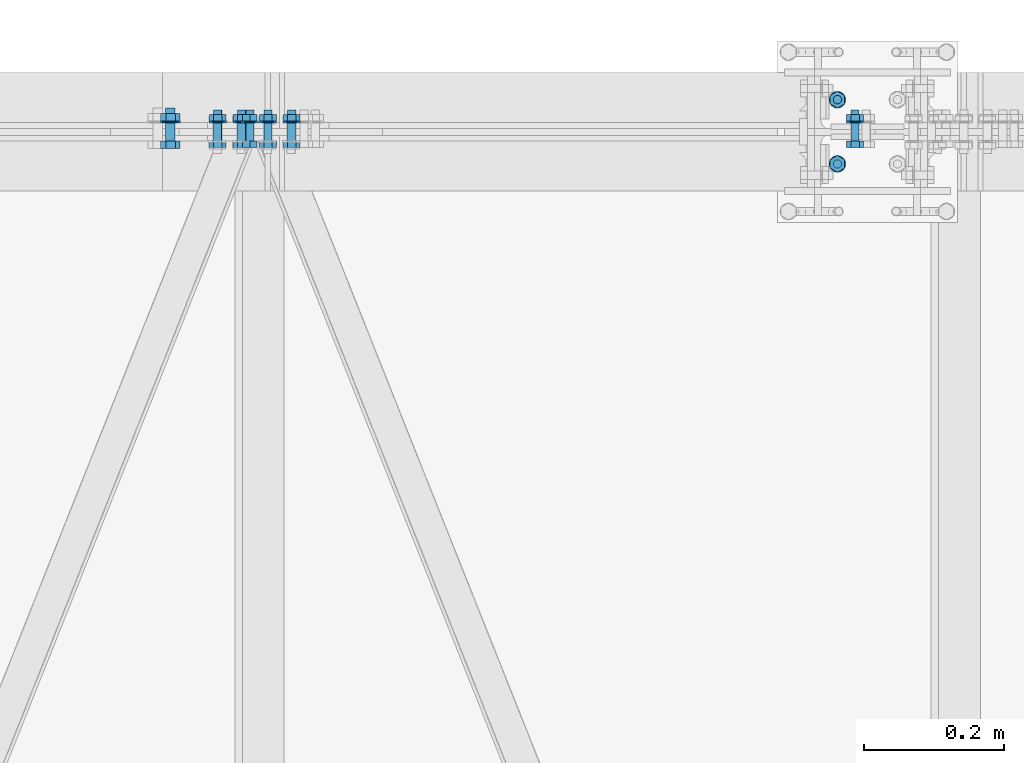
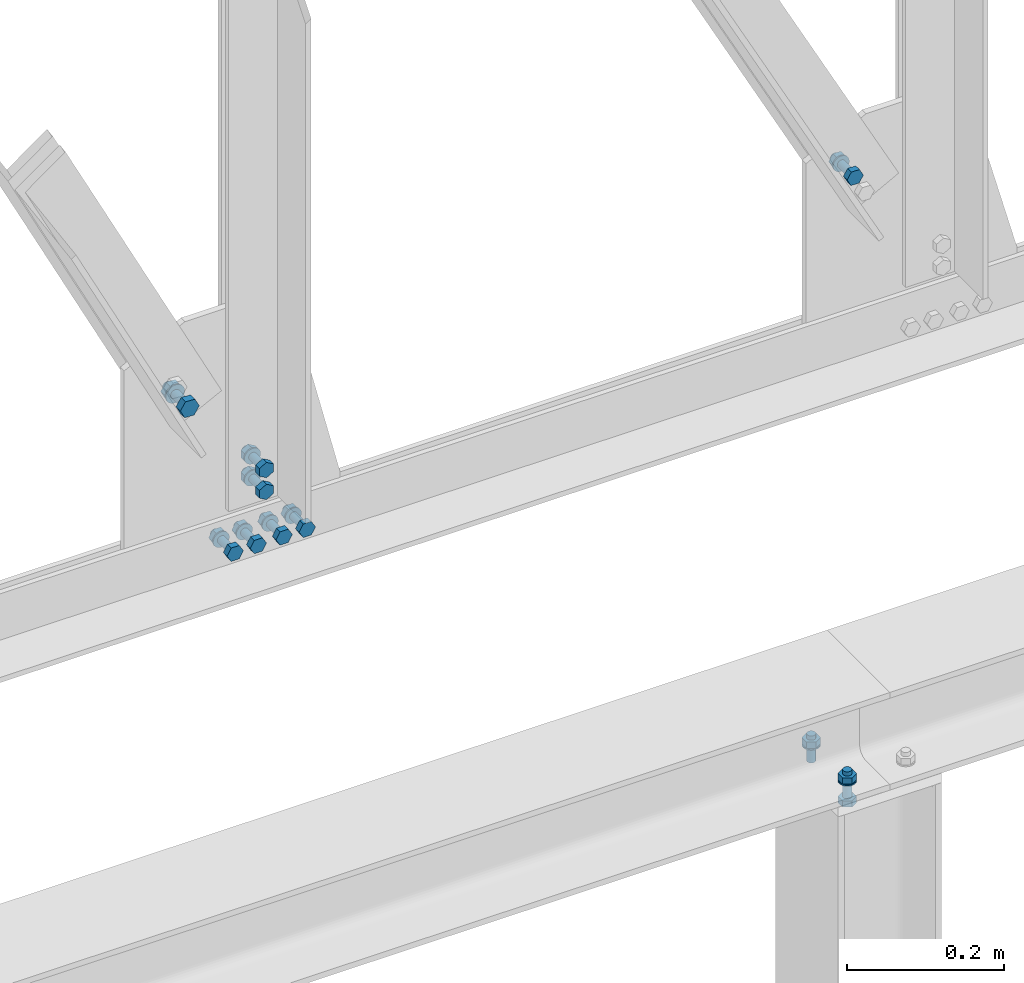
# One storey, part 199 of 251: 39 mechanical fasteners.
"""IFC4 building model written with IfcOpenShell, lengths in metres."""

from ifc_helpers import new_model, si_unit, frame, origin_with_axes, place, context, project, spatial, polyline, outline, extrude, type_object, element, save


model = new_model("IFC4")

# Units and contexts
model_context = context("Model", 3, precision=1e-05, world=origin_with_axes())
ifc_project = project(units=[si_unit("LENGTHUNIT", "METRE"), si_unit("AREAUNIT", "SQUARE_METRE"), si_unit("VOLUMEUNIT", "CUBIC_METRE"), si_unit("MASSUNIT", "GRAM", prefix="KILO"), si_unit("TIMEUNIT", "SECOND"), si_unit("PLANEANGLEUNIT", "RADIAN"), si_unit("SOLIDANGLEUNIT", "STERADIAN"), si_unit("THERMODYNAMICTEMPERATUREUNIT", "DEGREE_CELSIUS")], contexts=[model_context])

# Site, building, storey
placement_1 = place(None, origin_with_axes())
site = spatial("IfcSite", under=ifc_project, at=placement_1, Name="Italia", CompositionType="ELEMENT")
building = spatial("IfcBuilding", under=site, at=placement_1, Name="Deposito", CompositionType="ELEMENT")
storey = spatial("IfcBuildingStorey", under=building, at=placement_1, Name="Storey 0", CompositionType="ELEMENT", Elevation=0.0)

# Mechanical fasteners
mechanical_fastener_type_1 = type_object("IfcMechanicalFastenerType", Name="Collegamenti 7068_-014 7074_-015", PredefinedType="BOLT")
placement_2 = place(placement_1, origin_with_axes())
mechanical_fastener_1_placement = place(placement_2, origin_with_axes())
element("IfcMechanicalFastener", 1, at=mechanical_fastener_1_placement, inside=storey, type_object=mechanical_fastener_type_1, Name="Collegamenti 7068_-014 7074_-015", NominalDiameter=0.012, context=model_context, shape_type="SweptSolid", body=[
    extrude(outline(polyline([(0.0, 0.0), (-0.000204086, -0.00155258), (-0.000804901, -0.00300026), (-0.00175858, -0.0042429), (-0.00300026, -0.00519657), (-0.00444794, -0.00579548), (-0.00600052, -0.00599957), (-0.0075531, -0.00579548), (-0.00900078, -0.00519657), (-0.0102425, -0.0042429), (-0.0111961, -0.00300026), (-0.011797, -0.00155258), (-0.012001, 0.0), (-0.011797, 0.00155258), (-0.0111961, 0.00300026), (-0.0102425, 0.0042429), (-0.00900078, 0.00519657), (-0.0075531, 0.00579548), (-0.00600052, 0.00599957), (-0.00444794, 0.00579548), (-0.00300026, 0.00519657), (-0.00175858, 0.0042429), (-0.000804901, 0.00300026), (-0.000204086, 0.00155258), (0.0, 0.0)])), frame((10.872, 20.052, 4.375), z_axis=(0.0, 0.0, -1.0), x_axis=(0.0, 1.0, 0.0)), (0.0, 0.0, 1.0), 0.0419998),
])
mechanical_fastener_type_2 = type_object("IfcMechanicalFastenerType", Name="Collegamenti 7068_-014 7074_-015", PredefinedType="BOLT")
mechanical_fastener_2_placement = place(placement_2, origin_with_axes())
element("IfcMechanicalFastener", 2, at=mechanical_fastener_2_placement, inside=storey, type_object=mechanical_fastener_type_2, Name="Collegamenti 7068_-014 7074_-015", NominalDiameter=0.0119991, context=model_context, shape_type="SweptSolid", body=[
    extrude(outline(polyline([(0.0, 0.0), (0.0119991, 0.0), (0.0179996, -0.0103922), (0.0119991, -0.0207844), (0.0, -0.0207844), (-0.00600052, -0.0103922), (0.0, 0.0)])), frame((10.8824, 20.04, 4.3686), z_axis=(0.0, 0.0, -1.0), x_axis=(0.0, 1.0, 0.0)), (0.0, 0.0, 1.0), 0.00959969),
])
mechanical_fastener_type_3 = type_object("IfcMechanicalFastenerType", Name="Collegamenti 7068_-014 7074_-015", PredefinedType="BOLT")
mechanical_fastener_3_placement = place(placement_2, origin_with_axes())
element("IfcMechanicalFastener", 3, at=mechanical_fastener_3_placement, inside=storey, type_object=mechanical_fastener_type_3, Name="Collegamenti 7068_-014 7074_-015", NominalDiameter=0.024, context=model_context, shape_type="SweptSolid", body=[
    extrude(outline(polyline([(0.0, 0.0), (-0.000408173, -0.00310612), (-0.00160599, -0.00599957), (-0.00351334, -0.00848484), (-0.00599861, -0.0103922), (-0.00889397, -0.011591), (-0.0119991, -0.0120001), (-0.0151043, -0.011591), (-0.0179996, -0.0103922), (-0.0204849, -0.00848484), (-0.0223923, -0.00599957), (-0.0235901, -0.00310612), (-0.0239983, 0.0), (-0.0235901, 0.00310612), (-0.0223923, 0.00599957), (-0.0204849, 0.00848484), (-0.0179996, 0.0103922), (-0.0151043, 0.011591), (-0.0119991, 0.0120001), (-0.00889397, 0.011591), (-0.00599861, 0.0103922), (-0.00351334, 0.00848484), (-0.00160599, 0.00599957), (-0.000408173, 0.00310612), (0.0, 0.0)])), frame((10.872, 20.058, 4.359), z_axis=(0.0, 0.0, -1.0), x_axis=(0.0, 1.0, 0.0)), (0.0, 0.0, 1.0), 0.00200033),
])
mechanical_fastener_type_4 = type_object("IfcMechanicalFastenerType", Name="Collegamenti 7068_-014 7074_-015", PredefinedType="BOLT")
mechanical_fastener_4_placement = place(placement_2, origin_with_axes())
element("IfcMechanicalFastener", 4, at=mechanical_fastener_4_placement, inside=storey, type_object=mechanical_fastener_type_4, Name="Collegamenti 7068_-014 7074_-015", NominalDiameter=0.0119991, context=model_context, shape_type="SweptSolid", body=[
    extrude(outline(polyline([(0.0, 0.0), (0.0119991, 0.0), (0.0179996, -0.0103922), (0.0119991, -0.0207844), (0.0, -0.0207844), (-0.00600052, -0.0103922), (0.0, 0.0)])), frame((10.8824, 19.948, 4.333), z_axis=(0.0, 0.0, -1.0), x_axis=(0.0, 1.0, 0.0)), (0.0, 0.0, 1.0), 0.00960016),
])
mechanical_fastener_type_5 = type_object("IfcMechanicalFastenerType", Name="Collegamenti 7068_-014 7074_-015", PredefinedType="BOLT")
mechanical_fastener_5_placement = place(placement_2, origin_with_axes())
element("IfcMechanicalFastener", 5, at=mechanical_fastener_5_placement, inside=storey, type_object=mechanical_fastener_type_5, Name="Collegamenti 7068_-014 7074_-015", NominalDiameter=0.012, context=model_context, shape_type="SweptSolid", body=[
    extrude(outline(polyline([(0.0, 0.0), (-0.000204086, -0.00155258), (-0.000804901, -0.00300026), (-0.00175858, -0.0042429), (-0.00300026, -0.00519657), (-0.00444794, -0.00579548), (-0.00600052, -0.00599957), (-0.0075531, -0.00579548), (-0.00900078, -0.00519657), (-0.0102425, -0.0042429), (-0.0111961, -0.00300026), (-0.011797, -0.00155258), (-0.012001, 0.0), (-0.011797, 0.00155258), (-0.0111961, 0.00300026), (-0.0102425, 0.0042429), (-0.00900078, 0.00519657), (-0.0075531, 0.00579548), (-0.00600052, 0.00599957), (-0.00444794, 0.00579548), (-0.00300026, 0.00519657), (-0.00175858, 0.0042429), (-0.000804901, 0.00300026), (-0.000204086, 0.00155258), (0.0, 0.0)])), frame((10.872, 19.96, 4.375), z_axis=(0.0, 0.0, -1.0), x_axis=(0.0, 1.0, 0.0)), (0.0, 0.0, 1.0), 0.0419998),
])
mechanical_fastener_type_6 = type_object("IfcMechanicalFastenerType", Name="Collegamenti 7068_-014 7074_-015", PredefinedType="BOLT")
mechanical_fastener_6_placement = place(placement_2, origin_with_axes())
element("IfcMechanicalFastener", 6, at=mechanical_fastener_6_placement, inside=storey, type_object=mechanical_fastener_type_6, Name="Collegamenti 7068_-014 7074_-015", NominalDiameter=0.0119991, context=model_context, shape_type="SweptSolid", body=[
    extrude(outline(polyline([(0.0, 0.0), (0.0119991, 0.0), (0.0179996, -0.0103922), (0.0119991, -0.0207844), (0.0, -0.0207844), (-0.00600052, -0.0103922), (0.0, 0.0)])), frame((10.8824, 19.948, 4.3686), z_axis=(0.0, 0.0, -1.0), x_axis=(0.0, 1.0, 0.0)), (0.0, 0.0, 1.0), 0.00959969),
])
mechanical_fastener_type_7 = type_object("IfcMechanicalFastenerType", Name="Collegamenti 7068_-014 7074_-015", PredefinedType="BOLT")
mechanical_fastener_7_placement = place(placement_2, origin_with_axes())
element("IfcMechanicalFastener", 7, at=mechanical_fastener_7_placement, inside=storey, type_object=mechanical_fastener_type_7, Name="Collegamenti 7068_-014 7074_-015", NominalDiameter=0.024, context=model_context, shape_type="SweptSolid", body=[
    extrude(outline(polyline([(0.0, 0.0), (-0.000408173, -0.00310612), (-0.00160599, -0.00599957), (-0.00351334, -0.00848484), (-0.00599861, -0.0103922), (-0.00889397, -0.011591), (-0.0119991, -0.0120001), (-0.0151043, -0.011591), (-0.0179996, -0.0103922), (-0.0204849, -0.00848484), (-0.0223923, -0.00599957), (-0.0235901, -0.00310612), (-0.0239983, 0.0), (-0.0235901, 0.00310612), (-0.0223923, 0.00599957), (-0.0204849, 0.00848484), (-0.0179996, 0.0103922), (-0.0151043, 0.011591), (-0.0119991, 0.0120001), (-0.00889397, 0.011591), (-0.00599861, 0.0103922), (-0.00351334, 0.00848484), (-0.00160599, 0.00599957), (-0.000408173, 0.00310612), (0.0, 0.0)])), frame((10.872, 19.966, 4.359), z_axis=(0.0, 0.0, -1.0), x_axis=(0.0, 1.0, 0.0)), (0.0, 0.0, 1.0), 0.00200033),
])
mechanical_fastener_type_8 = type_object("IfcMechanicalFastenerType", Name="Reticolare 6", PredefinedType="BOLT")
mechanical_fastener_8_placement = place(placement_2, origin_with_axes())
element("IfcMechanicalFastener", 8, at=mechanical_fastener_8_placement, inside=storey, type_object=mechanical_fastener_type_8, Name="Reticolare 6", NominalDiameter=0.0119997, context=model_context, shape_type="SweptSolid", body=[
    extrude(outline(polyline([(0.0, 0.0), (-0.0120001, 0.0), (-0.0180006, 0.0103922), (-0.0120001, 0.0207844), (0.0, 0.0207844), (0.00599957, 0.0103922), (0.0, 0.0)])), frame((10.0251, 19.987, 4.99661), z_axis=(0.0, -1.0, 0.0), x_axis=(1.0, 0.0, 0.0)), (0.0, 0.0, 1.0), 0.00959969),
])
mechanical_fastener_type_9 = type_object("IfcMechanicalFastenerType", Name="Reticolare 6", PredefinedType="BOLT")
mechanical_fastener_9_placement = place(placement_2, origin_with_axes())
element("IfcMechanicalFastener", 9, at=mechanical_fastener_9_placement, inside=storey, type_object=mechanical_fastener_type_9, Name="Reticolare 6", NominalDiameter=0.012, context=model_context, shape_type="SweptSolid", body=[
    extrude(outline(polyline([(0.0, 0.0), (-0.000204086, -0.00155306), (-0.000802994, -0.00299978), (-0.00175667, -0.00424242), (-0.00299931, -0.00519609), (-0.00444698, -0.00579548), (-0.00599957, -0.00600004), (-0.00755215, -0.00579548), (-0.00899982, -0.00519609), (-0.0102425, -0.00424242), (-0.0111961, -0.00299978), (-0.011795, -0.00155306), (-0.0119991, 0.0), (-0.011795, 0.00155306), (-0.0111961, 0.00299978), (-0.0102425, 0.00424242), (-0.00899982, 0.00519609), (-0.00755215, 0.00579548), (-0.00599957, 0.00600004), (-0.00444698, 0.00579548), (-0.00299931, 0.00519609), (-0.00175667, 0.00424242), (-0.000802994, 0.00299978), (-0.000204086, 0.00155306), (0.0, 0.0)])), frame((10.0251, 20.031, 5.007), z_axis=(0.0, -1.0, 0.0), x_axis=(1.0, 0.0, 0.0)), (0.0, 0.0, 1.0), 0.0440006),
])
mechanical_fastener_type_10 = type_object("IfcMechanicalFastenerType", Name="Reticolare 6", PredefinedType="BOLT")
mechanical_fastener_10_placement = place(placement_2, origin_with_axes())
element("IfcMechanicalFastener", 10, at=mechanical_fastener_10_placement, inside=storey, type_object=mechanical_fastener_type_10, Name="Reticolare 6", NominalDiameter=0.0119997, context=model_context, shape_type="SweptSolid", body=[
    extrude(outline(polyline([(0.0, 0.0), (-0.0120001, 0.0), (-0.0180006, 0.0103922), (-0.0120001, 0.0207844), (0.0, 0.0207844), (0.00599957, 0.0103922), (0.0, 0.0)])), frame((10.0251, 20.0246, 4.99661), z_axis=(0.0, -1.0, 0.0), x_axis=(1.0, 0.0, 0.0)), (0.0, 0.0, 1.0), 0.00959969),
])
mechanical_fastener_type_11 = type_object("IfcMechanicalFastenerType", Name="Reticolare 6", PredefinedType="BOLT")
mechanical_fastener_11_placement = place(placement_2, origin_with_axes())
element("IfcMechanicalFastener", 11, at=mechanical_fastener_11_placement, inside=storey, type_object=mechanical_fastener_type_11, Name="Reticolare 6", NominalDiameter=0.024, context=model_context, shape_type="SweptSolid", body=[
    extrude(outline(polyline([(0.0, 0.0), (-0.000409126, -0.00310564), (-0.00160789, -0.00600004), (-0.00351524, -0.00848532), (-0.00600052, -0.0103922), (-0.00889397, -0.011591), (-0.0120001, -0.0120001), (-0.0151062, -0.011591), (-0.0179996, -0.0103922), (-0.0204849, -0.00848532), (-0.0223923, -0.00600004), (-0.023591, -0.00310564), (-0.0240002, 0.0), (-0.023591, 0.00310564), (-0.0223923, 0.00600004), (-0.0204849, 0.00848532), (-0.0179996, 0.0103922), (-0.0151062, 0.011591), (-0.0120001, 0.0120001), (-0.00889397, 0.011591), (-0.00600052, 0.0103922), (-0.00351524, 0.00848532), (-0.00160789, 0.00600004), (-0.000409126, 0.00310564), (0.0, 0.0)])), frame((10.0311, 20.015, 5.007), z_axis=(0.0, -1.0, 0.0), x_axis=(1.0, 0.0, 0.0)), (0.0, 0.0, 1.0), 0.0019989),
])
mechanical_fastener_type_12 = type_object("IfcMechanicalFastenerType", Name="Reticolare 6", PredefinedType="BOLT")
mechanical_fastener_12_placement = place(placement_2, origin_with_axes())
element("IfcMechanicalFastener", 12, at=mechanical_fastener_12_placement, inside=storey, type_object=mechanical_fastener_type_12, Name="Reticolare 6", NominalDiameter=0.0119997, context=model_context, shape_type="SweptSolid", body=[
    extrude(outline(polyline([(0.0, 0.0), (-0.0120001, 0.0), (-0.0179996, 0.0103922), (-0.0120001, 0.0207844), (0.0, 0.0207844), (0.00599957, 0.0103922), (0.0, 0.0)])), frame((9.99105, 19.987, 4.99661), z_axis=(0.0, -1.0, 0.0), x_axis=(1.0, 0.0, 0.0)), (0.0, 0.0, 1.0), 0.00959969),
])
mechanical_fastener_type_13 = type_object("IfcMechanicalFastenerType", Name="Reticolare 6", PredefinedType="BOLT")
mechanical_fastener_13_placement = place(placement_2, origin_with_axes())
element("IfcMechanicalFastener", 13, at=mechanical_fastener_13_placement, inside=storey, type_object=mechanical_fastener_type_13, Name="Reticolare 6", NominalDiameter=0.012, context=model_context, shape_type="SweptSolid", body=[
    extrude(outline(polyline([(0.0, 0.0), (-0.000204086, -0.00155306), (-0.000802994, -0.00299978), (-0.00175667, -0.00424242), (-0.00299931, -0.00519609), (-0.00444698, -0.00579548), (-0.00599957, -0.00600004), (-0.00755215, -0.00579548), (-0.00899982, -0.00519609), (-0.0102425, -0.00424242), (-0.0111961, -0.00299978), (-0.011795, -0.00155306), (-0.0119991, 0.0), (-0.011795, 0.00155306), (-0.0111961, 0.00299978), (-0.0102425, 0.00424242), (-0.00899982, 0.00519609), (-0.00755215, 0.00579548), (-0.00599957, 0.00600004), (-0.00444698, 0.00579548), (-0.00299931, 0.00519609), (-0.00175667, 0.00424242), (-0.000802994, 0.00299978), (-0.000204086, 0.00155306), (0.0, 0.0)])), frame((9.99105, 20.031, 5.007), z_axis=(0.0, -1.0, 0.0), x_axis=(1.0, 0.0, 0.0)), (0.0, 0.0, 1.0), 0.0440006),
])
mechanical_fastener_type_14 = type_object("IfcMechanicalFastenerType", Name="Reticolare 6", PredefinedType="BOLT")
mechanical_fastener_14_placement = place(placement_2, origin_with_axes())
element("IfcMechanicalFastener", 14, at=mechanical_fastener_14_placement, inside=storey, type_object=mechanical_fastener_type_14, Name="Reticolare 6", NominalDiameter=0.0119997, context=model_context, shape_type="SweptSolid", body=[
    extrude(outline(polyline([(0.0, 0.0), (-0.0120001, 0.0), (-0.0179996, 0.0103922), (-0.0120001, 0.0207844), (0.0, 0.0207844), (0.00599957, 0.0103922), (0.0, 0.0)])), frame((9.99105, 20.0246, 4.99661), z_axis=(0.0, -1.0, 0.0), x_axis=(1.0, 0.0, 0.0)), (0.0, 0.0, 1.0), 0.00959969),
])
mechanical_fastener_type_15 = type_object("IfcMechanicalFastenerType", Name="Reticolare 6", PredefinedType="BOLT")
mechanical_fastener_15_placement = place(placement_2, origin_with_axes())
element("IfcMechanicalFastener", 15, at=mechanical_fastener_15_placement, inside=storey, type_object=mechanical_fastener_type_15, Name="Reticolare 6", NominalDiameter=0.024, context=model_context, shape_type="SweptSolid", body=[
    extrude(outline(polyline([(0.0, 0.0), (-0.000409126, -0.00310564), (-0.00160789, -0.00600004), (-0.00351524, -0.00848532), (-0.00600052, -0.0103922), (-0.00889397, -0.011591), (-0.0120001, -0.0120001), (-0.0151062, -0.011591), (-0.0179996, -0.0103922), (-0.0204849, -0.00848532), (-0.0223923, -0.00600004), (-0.023591, -0.00310564), (-0.0240002, 0.0), (-0.023591, 0.00310564), (-0.0223923, 0.00600004), (-0.0204849, 0.00848532), (-0.0179996, 0.0103922), (-0.0151062, 0.011591), (-0.0120001, 0.0120001), (-0.00889397, 0.011591), (-0.00600052, 0.0103922), (-0.00351524, 0.00848532), (-0.00160789, 0.00600004), (-0.000409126, 0.00310564), (0.0, 0.0)])), frame((9.99705, 20.015, 5.007), z_axis=(0.0, -1.0, 0.0), x_axis=(1.0, 0.0, 0.0)), (0.0, 0.0, 1.0), 0.0019989),
])
mechanical_fastener_type_16 = type_object("IfcMechanicalFastenerType", Name="Reticolare 6", PredefinedType="BOLT")
mechanical_fastener_16_placement = place(placement_2, origin_with_axes())
element("IfcMechanicalFastener", 16, at=mechanical_fastener_16_placement, inside=storey, type_object=mechanical_fastener_type_16, Name="Reticolare 6", NominalDiameter=0.0119997, context=model_context, shape_type="SweptSolid", body=[
    extrude(outline(polyline([(0.0, 0.0), (-0.0120001, 0.0), (-0.0179996, 0.0103922), (-0.0120001, 0.0207844), (0.0, 0.0207844), (0.00600052, 0.0103922), (0.0, 0.0)])), frame((10.0631, 19.987, 4.99661), z_axis=(0.0, -1.0, 0.0), x_axis=(1.0, 0.0, 0.0)), (0.0, 0.0, 1.0), 0.00959969),
])
mechanical_fastener_type_17 = type_object("IfcMechanicalFastenerType", Name="Reticolare 6", PredefinedType="BOLT")
mechanical_fastener_17_placement = place(placement_2, origin_with_axes())
element("IfcMechanicalFastener", 17, at=mechanical_fastener_17_placement, inside=storey, type_object=mechanical_fastener_type_17, Name="Reticolare 6", NominalDiameter=0.012, context=model_context, shape_type="SweptSolid", body=[
    extrude(outline(polyline([(0.0, 0.0), (-0.000204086, -0.00155306), (-0.000802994, -0.00299978), (-0.00175667, -0.00424242), (-0.00299931, -0.00519609), (-0.00444698, -0.00579548), (-0.00599957, -0.00600004), (-0.00755215, -0.00579548), (-0.00899982, -0.00519609), (-0.0102425, -0.00424242), (-0.0111961, -0.00299978), (-0.011795, -0.00155306), (-0.0119991, 0.0), (-0.011795, 0.00155306), (-0.0111961, 0.00299978), (-0.0102425, 0.00424242), (-0.00899982, 0.00519609), (-0.00755215, 0.00579548), (-0.00599957, 0.00600004), (-0.00444698, 0.00579548), (-0.00299931, 0.00519609), (-0.00175667, 0.00424242), (-0.000802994, 0.00299978), (-0.000204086, 0.00155306), (0.0, 0.0)])), frame((10.0631, 20.031, 5.007), z_axis=(0.0, -1.0, 0.0), x_axis=(1.0, 0.0, 0.0)), (0.0, 0.0, 1.0), 0.0440006),
])
mechanical_fastener_type_18 = type_object("IfcMechanicalFastenerType", Name="Reticolare 6", PredefinedType="BOLT")
mechanical_fastener_18_placement = place(placement_2, origin_with_axes())
element("IfcMechanicalFastener", 18, at=mechanical_fastener_18_placement, inside=storey, type_object=mechanical_fastener_type_18, Name="Reticolare 6", NominalDiameter=0.0119997, context=model_context, shape_type="SweptSolid", body=[
    extrude(outline(polyline([(0.0, 0.0), (-0.0120001, 0.0), (-0.0179996, 0.0103922), (-0.0120001, 0.0207844), (0.0, 0.0207844), (0.00600052, 0.0103922), (0.0, 0.0)])), frame((10.0631, 20.0246, 4.99661), z_axis=(0.0, -1.0, 0.0), x_axis=(1.0, 0.0, 0.0)), (0.0, 0.0, 1.0), 0.00959969),
])
mechanical_fastener_type_19 = type_object("IfcMechanicalFastenerType", Name="Reticolare 6", PredefinedType="BOLT")
mechanical_fastener_19_placement = place(placement_2, origin_with_axes())
element("IfcMechanicalFastener", 19, at=mechanical_fastener_19_placement, inside=storey, type_object=mechanical_fastener_type_19, Name="Reticolare 6", NominalDiameter=0.024, context=model_context, shape_type="SweptSolid", body=[
    extrude(outline(polyline([(0.0, 0.0), (-0.000409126, -0.00310564), (-0.00160789, -0.00600004), (-0.00351524, -0.00848532), (-0.00600052, -0.0103922), (-0.00889397, -0.011591), (-0.0120001, -0.0120001), (-0.0151062, -0.011591), (-0.0179996, -0.0103922), (-0.0204849, -0.00848532), (-0.0223923, -0.00600004), (-0.023591, -0.00310564), (-0.0240002, 0.0), (-0.023591, 0.00310564), (-0.0223923, 0.00600004), (-0.0204849, 0.00848532), (-0.0179996, 0.0103922), (-0.0151062, 0.011591), (-0.0120001, 0.0120001), (-0.00889397, 0.011591), (-0.00600052, 0.0103922), (-0.00351524, 0.00848532), (-0.00160789, 0.00600004), (-0.000409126, 0.00310564), (0.0, 0.0)])), frame((10.0691, 20.015, 5.007), z_axis=(0.0, -1.0, 0.0), x_axis=(1.0, 0.0, 0.0)), (0.0, 0.0, 1.0), 0.0019989),
])
mechanical_fastener_type_20 = type_object("IfcMechanicalFastenerType", Name="Reticolare 6", PredefinedType="BOLT")
mechanical_fastener_20_placement = place(placement_2, origin_with_axes())
element("IfcMechanicalFastener", 20, at=mechanical_fastener_20_placement, inside=storey, type_object=mechanical_fastener_type_20, Name="Reticolare 6", NominalDiameter=0.0119997, context=model_context, shape_type="SweptSolid", body=[
    extrude(outline(polyline([(0.0, 0.0), (-0.0120001, 0.0), (-0.0179996, 0.0103922), (-0.0120001, 0.0207844), (0.0, 0.0207844), (0.00599957, 0.0103922), (0.0, 0.0)])), frame((10.0971, 19.987, 4.99661), z_axis=(0.0, -1.0, 0.0), x_axis=(1.0, 0.0, 0.0)), (0.0, 0.0, 1.0), 0.00959969),
])
mechanical_fastener_type_21 = type_object("IfcMechanicalFastenerType", Name="Reticolare 6", PredefinedType="BOLT")
mechanical_fastener_21_placement = place(placement_2, origin_with_axes())
element("IfcMechanicalFastener", 21, at=mechanical_fastener_21_placement, inside=storey, type_object=mechanical_fastener_type_21, Name="Reticolare 6", NominalDiameter=0.012, context=model_context, shape_type="SweptSolid", body=[
    extrude(outline(polyline([(0.0, 0.0), (-0.000204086, -0.00155306), (-0.000802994, -0.00299978), (-0.00175667, -0.00424242), (-0.00299931, -0.00519609), (-0.00444698, -0.00579548), (-0.00599957, -0.00600004), (-0.00755215, -0.00579548), (-0.00899982, -0.00519609), (-0.0102425, -0.00424242), (-0.0111961, -0.00299978), (-0.011795, -0.00155306), (-0.0119991, 0.0), (-0.011795, 0.00155306), (-0.0111961, 0.00299978), (-0.0102425, 0.00424242), (-0.00899982, 0.00519609), (-0.00755215, 0.00579548), (-0.00599957, 0.00600004), (-0.00444698, 0.00579548), (-0.00299931, 0.00519609), (-0.00175667, 0.00424242), (-0.000802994, 0.00299978), (-0.000204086, 0.00155306), (0.0, 0.0)])), frame((10.0971, 20.031, 5.007), z_axis=(0.0, -1.0, 0.0), x_axis=(1.0, 0.0, 0.0)), (0.0, 0.0, 1.0), 0.0440006),
])
mechanical_fastener_type_22 = type_object("IfcMechanicalFastenerType", Name="Reticolare 6", PredefinedType="BOLT")
mechanical_fastener_22_placement = place(placement_2, origin_with_axes())
element("IfcMechanicalFastener", 22, at=mechanical_fastener_22_placement, inside=storey, type_object=mechanical_fastener_type_22, Name="Reticolare 6", NominalDiameter=0.0119997, context=model_context, shape_type="SweptSolid", body=[
    extrude(outline(polyline([(0.0, 0.0), (-0.0120001, 0.0), (-0.0179996, 0.0103922), (-0.0120001, 0.0207844), (0.0, 0.0207844), (0.00599957, 0.0103922), (0.0, 0.0)])), frame((10.0971, 20.0246, 4.99661), z_axis=(0.0, -1.0, 0.0), x_axis=(1.0, 0.0, 0.0)), (0.0, 0.0, 1.0), 0.00959969),
])
mechanical_fastener_type_23 = type_object("IfcMechanicalFastenerType", Name="Reticolare 6", PredefinedType="BOLT")
mechanical_fastener_23_placement = place(placement_2, origin_with_axes())
element("IfcMechanicalFastener", 23, at=mechanical_fastener_23_placement, inside=storey, type_object=mechanical_fastener_type_23, Name="Reticolare 6", NominalDiameter=0.024, context=model_context, shape_type="SweptSolid", body=[
    extrude(outline(polyline([(0.0, 0.0), (-0.000409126, -0.00310564), (-0.00160789, -0.00600004), (-0.00351524, -0.00848532), (-0.00600052, -0.0103922), (-0.00889397, -0.011591), (-0.0120001, -0.0120001), (-0.0151062, -0.011591), (-0.0179996, -0.0103922), (-0.0204849, -0.00848532), (-0.0223923, -0.00600004), (-0.023591, -0.00310564), (-0.0240002, 0.0), (-0.023591, 0.00310564), (-0.0223923, 0.00600004), (-0.0204849, 0.00848532), (-0.0179996, 0.0103922), (-0.0151062, 0.011591), (-0.0120001, 0.0120001), (-0.00889397, 0.011591), (-0.00600052, 0.0103922), (-0.00351524, 0.00848532), (-0.00160789, 0.00600004), (-0.000409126, 0.00310564), (0.0, 0.0)])), frame((10.1031, 20.015, 5.007), z_axis=(0.0, -1.0, 0.0), x_axis=(1.0, 0.0, 0.0)), (0.0, 0.0, 1.0), 0.0019989),
])
mechanical_fastener_type_24 = type_object("IfcMechanicalFastenerType", Name="Reticolare 6", PredefinedType="BOLT")
mechanical_fastener_24_placement = place(placement_2, origin_with_axes())
element("IfcMechanicalFastener", 24, at=mechanical_fastener_24_placement, inside=storey, type_object=mechanical_fastener_type_24, Name="Reticolare 6", NominalDiameter=0.0119999, context=model_context, shape_type="SweptSolid", body=[
    extrude(outline(polyline([(0.0, 0.0), (0.0, -0.0120001), (-0.0103922, -0.0180001), (-0.0207844, -0.0120001), (-0.0207844, 0.0), (-0.0103922, 0.00600004), (0.0, 0.0)])), frame((10.0414, 19.987, 5.09253), z_axis=(0.0, -1.0, 0.0), x_axis=(1.0, 0.0, 0.0)), (0.0, 0.0, 1.0), 0.00959969),
])
mechanical_fastener_type_25 = type_object("IfcMechanicalFastenerType", Name="Reticolare 6", PredefinedType="BOLT")
mechanical_fastener_25_placement = place(placement_2, origin_with_axes())
element("IfcMechanicalFastener", 25, at=mechanical_fastener_25_placement, inside=storey, type_object=mechanical_fastener_type_25, Name="Reticolare 6", NominalDiameter=0.012, context=model_context, shape_type="SweptSolid", body=[
    extrude(outline(polyline([(0.0, 0.0), (-0.000204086, -0.00155306), (-0.000802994, -0.00299978), (-0.00175667, -0.00424242), (-0.00299931, -0.00519609), (-0.00444698, -0.00579548), (-0.00599957, -0.00600004), (-0.00755215, -0.00579548), (-0.00899982, -0.00519609), (-0.0102425, -0.00424242), (-0.0111961, -0.00299978), (-0.011795, -0.00155306), (-0.0119991, 0.0), (-0.011795, 0.00155306), (-0.0111961, 0.00299978), (-0.0102425, 0.00424242), (-0.00899982, 0.00519609), (-0.00755215, 0.00579548), (-0.00599957, 0.00600004), (-0.00444698, 0.00579548), (-0.00299931, 0.00519609), (-0.00175667, 0.00424242), (-0.000802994, 0.00299978), (-0.000204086, 0.00155306), (0.0, 0.0)])), frame((10.0371, 20.031, 5.08653), z_axis=(0.0, -1.0, 0.0), x_axis=(1.0, 0.0, 0.0)), (0.0, 0.0, 1.0), 0.0440006),
])
mechanical_fastener_type_26 = type_object("IfcMechanicalFastenerType", Name="Reticolare 6", PredefinedType="BOLT")
mechanical_fastener_26_placement = place(placement_2, origin_with_axes())
element("IfcMechanicalFastener", 26, at=mechanical_fastener_26_placement, inside=storey, type_object=mechanical_fastener_type_26, Name="Reticolare 6", NominalDiameter=0.0119999, context=model_context, shape_type="SweptSolid", body=[
    extrude(outline(polyline([(0.0, 0.0), (0.0, -0.0120001), (-0.0103922, -0.0180001), (-0.0207844, -0.0120001), (-0.0207844, 0.0), (-0.0103922, 0.00600004), (0.0, 0.0)])), frame((10.0414, 20.0246, 5.09253), z_axis=(0.0, -1.0, 0.0), x_axis=(1.0, 0.0, 0.0)), (0.0, 0.0, 1.0), 0.00959969),
])
mechanical_fastener_type_27 = type_object("IfcMechanicalFastenerType", Name="Reticolare 6", PredefinedType="BOLT")
mechanical_fastener_27_placement = place(placement_2, origin_with_axes())
element("IfcMechanicalFastener", 27, at=mechanical_fastener_27_placement, inside=storey, type_object=mechanical_fastener_type_27, Name="Reticolare 6", NominalDiameter=0.024, context=model_context, shape_type="SweptSolid", body=[
    extrude(outline(polyline([(0.0, 0.0), (-0.000409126, -0.00310564), (-0.00160789, -0.00600004), (-0.00351524, -0.00848532), (-0.00600052, -0.0103922), (-0.00889397, -0.011591), (-0.0120001, -0.0120001), (-0.0151062, -0.011591), (-0.0179996, -0.0103922), (-0.0204849, -0.00848532), (-0.0223923, -0.00600004), (-0.023591, -0.00310564), (-0.0240002, 0.0), (-0.023591, 0.00310564), (-0.0223923, 0.00600004), (-0.0204849, 0.00848532), (-0.0179996, 0.0103922), (-0.0151062, 0.011591), (-0.0120001, 0.0120001), (-0.00889397, 0.011591), (-0.00600052, 0.0103922), (-0.00351524, 0.00848532), (-0.00160789, 0.00600004), (-0.000409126, 0.00310564), (0.0, 0.0)])), frame((10.0431, 20.015, 5.08653), z_axis=(0.0, -1.0, 0.0), x_axis=(1.0, 0.0, 0.0)), (0.0, 0.0, 1.0), 0.0019989),
])
mechanical_fastener_type_28 = type_object("IfcMechanicalFastenerType", Name="Reticolare 6", PredefinedType="BOLT")
mechanical_fastener_28_placement = place(placement_2, origin_with_axes())
element("IfcMechanicalFastener", 28, at=mechanical_fastener_28_placement, inside=storey, type_object=mechanical_fastener_type_28, Name="Reticolare 6", NominalDiameter=0.0119999, context=model_context, shape_type="SweptSolid", body=[
    extrude(outline(polyline([(0.0, 0.0), (0.0, -0.0120001), (-0.0103922, -0.0180001), (-0.0207844, -0.0120001), (-0.0207844, 0.0), (-0.0103922, 0.00600004), (0.0, 0.0)])), frame((10.0414, 19.987, 5.12653), z_axis=(0.0, -1.0, 0.0), x_axis=(1.0, 0.0, 0.0)), (0.0, 0.0, 1.0), 0.00959969),
])
mechanical_fastener_type_29 = type_object("IfcMechanicalFastenerType", Name="Reticolare 6", PredefinedType="BOLT")
mechanical_fastener_29_placement = place(placement_2, origin_with_axes())
element("IfcMechanicalFastener", 29, at=mechanical_fastener_29_placement, inside=storey, type_object=mechanical_fastener_type_29, Name="Reticolare 6", NominalDiameter=0.012, context=model_context, shape_type="SweptSolid", body=[
    extrude(outline(polyline([(0.0, 0.0), (-0.000204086, -0.00155306), (-0.000802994, -0.00299978), (-0.00175667, -0.00424242), (-0.00299931, -0.00519609), (-0.00444698, -0.00579548), (-0.00599957, -0.00600004), (-0.00755215, -0.00579548), (-0.00899982, -0.00519609), (-0.0102425, -0.00424242), (-0.0111961, -0.00299978), (-0.011795, -0.00155306), (-0.0119991, 0.0), (-0.011795, 0.00155306), (-0.0111961, 0.00299978), (-0.0102425, 0.00424242), (-0.00899982, 0.00519609), (-0.00755215, 0.00579548), (-0.00599957, 0.00600004), (-0.00444698, 0.00579548), (-0.00299931, 0.00519609), (-0.00175667, 0.00424242), (-0.000802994, 0.00299978), (-0.000204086, 0.00155306), (0.0, 0.0)])), frame((10.0371, 20.031, 5.12053), z_axis=(0.0, -1.0, 0.0), x_axis=(1.0, 0.0, 0.0)), (0.0, 0.0, 1.0), 0.0440006),
])
mechanical_fastener_type_30 = type_object("IfcMechanicalFastenerType", Name="Reticolare 6", PredefinedType="BOLT")
mechanical_fastener_30_placement = place(placement_2, origin_with_axes())
element("IfcMechanicalFastener", 30, at=mechanical_fastener_30_placement, inside=storey, type_object=mechanical_fastener_type_30, Name="Reticolare 6", NominalDiameter=0.0119999, context=model_context, shape_type="SweptSolid", body=[
    extrude(outline(polyline([(0.0, 0.0), (0.0, -0.0120001), (-0.0103922, -0.0180001), (-0.0207844, -0.0120001), (-0.0207844, 0.0), (-0.0103922, 0.00600004), (0.0, 0.0)])), frame((10.0414, 20.0246, 5.12653), z_axis=(0.0, -1.0, 0.0), x_axis=(1.0, 0.0, 0.0)), (0.0, 0.0, 1.0), 0.00959969),
])
mechanical_fastener_type_31 = type_object("IfcMechanicalFastenerType", Name="Reticolare 6", PredefinedType="BOLT")
mechanical_fastener_31_placement = place(placement_2, origin_with_axes())
element("IfcMechanicalFastener", 31, at=mechanical_fastener_31_placement, inside=storey, type_object=mechanical_fastener_type_31, Name="Reticolare 6", NominalDiameter=0.024, context=model_context, shape_type="SweptSolid", body=[
    extrude(outline(polyline([(0.0, 0.0), (-0.000409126, -0.00310564), (-0.00160789, -0.00600004), (-0.00351524, -0.00848532), (-0.00600052, -0.0103922), (-0.00889397, -0.011591), (-0.0120001, -0.0120001), (-0.0151062, -0.011591), (-0.0179996, -0.0103922), (-0.0204849, -0.00848532), (-0.0223923, -0.00600004), (-0.023591, -0.00310564), (-0.0240002, 0.0), (-0.023591, 0.00310564), (-0.0223923, 0.00600004), (-0.0204849, 0.00848532), (-0.0179996, 0.0103922), (-0.0151062, 0.011591), (-0.0120001, 0.0120001), (-0.00889397, 0.011591), (-0.00600052, 0.0103922), (-0.00351524, 0.00848532), (-0.00160789, 0.00600004), (-0.000409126, 0.00310564), (0.0, 0.0)])), frame((10.0431, 20.015, 5.12053), z_axis=(0.0, -1.0, 0.0), x_axis=(1.0, 0.0, 0.0)), (0.0, 0.0, 1.0), 0.0019989),
])
mechanical_fastener_type_32 = type_object("IfcMechanicalFastenerType", Name="Reticolare 6", PredefinedType="BOLT")
mechanical_fastener_32_placement = place(placement_2, origin_with_axes())
element("IfcMechanicalFastener", 32, at=mechanical_fastener_32_placement, inside=storey, type_object=mechanical_fastener_type_32, Name="Reticolare 6", NominalDiameter=0.0139995, context=model_context, shape_type="SweptSolid", body=[
    extrude(outline(polyline([(0.0, 0.0), (-0.0063467, 0.0124788), (0.00128651, 0.0242143), (0.0152664, 0.0234714), (0.0216131, 0.0109925), (0.0139799, -0.000742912), (0.0, 0.0)])), frame((9.9097, 19.987, 5.24548), z_axis=(0.0, -1.0, 0.0), x_axis=(1.0, 0.0, 0.0)), (0.0, 0.0, 1.0), 0.0112),
])
mechanical_fastener_type_33 = type_object("IfcMechanicalFastenerType", Name="Reticolare 6", PredefinedType="BOLT")
mechanical_fastener_33_placement = place(placement_2, origin_with_axes())
element("IfcMechanicalFastener", 33, at=mechanical_fastener_33_placement, inside=storey, type_object=mechanical_fastener_type_33, Name="Reticolare 6", NominalDiameter=0.014, context=model_context, shape_type="SweptSolid", body=[
    extrude(outline(polyline([(0.0, 0.0), (-0.000238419, -0.0018115), (-0.000937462, -0.00349998), (-0.0020504, -0.00494957), (-0.00349998, -0.00606203), (-0.00518799, -0.00676155), (-0.00699997, -0.00699997), (-0.00881195, -0.00676155), (-0.0105, -0.00606203), (-0.0119495, -0.00494957), (-0.0130625, -0.00349998), (-0.0137615, -0.0018115), (-0.0139999, 0.0), (-0.0137615, 0.0018115), (-0.0130625, 0.00349998), (-0.0119495, 0.00494957), (-0.0105, 0.00606203), (-0.00881195, 0.00676155), (-0.00699997, 0.00699997), (-0.00518799, 0.00676155), (-0.00349998, 0.00606203), (-0.0020504, 0.00494957), (-0.000937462, 0.00349998), (-0.000238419, 0.0018115), (0.0, 0.0)])), frame((9.92433, 20.034, 5.25721), z_axis=(0.0, -1.0, 0.0), x_axis=(1.0, 0.0, 0.0)), (0.0, 0.0, 1.0), 0.0470009),
])
mechanical_fastener_type_34 = type_object("IfcMechanicalFastenerType", Name="Reticolare 6", PredefinedType="BOLT")
mechanical_fastener_34_placement = place(placement_2, origin_with_axes())
element("IfcMechanicalFastener", 34, at=mechanical_fastener_34_placement, inside=storey, type_object=mechanical_fastener_type_34, Name="Reticolare 6", NominalDiameter=0.0139995, context=model_context, shape_type="SweptSolid", body=[
    extrude(outline(polyline([(0.0, 0.0), (-0.0063467, 0.0124788), (0.00128651, 0.0242143), (0.0152664, 0.0234714), (0.0216131, 0.0109925), (0.0139799, -0.000742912), (0.0, 0.0)])), frame((9.9097, 20.0262, 5.24548), z_axis=(0.0, -1.0, 0.0), x_axis=(1.0, 0.0, 0.0)), (0.0, 0.0, 1.0), 0.0112),
])
mechanical_fastener_type_35 = type_object("IfcMechanicalFastenerType", Name="Reticolare 6", PredefinedType="BOLT")
mechanical_fastener_35_placement = place(placement_2, origin_with_axes())
element("IfcMechanicalFastener", 35, at=mechanical_fastener_35_placement, inside=storey, type_object=mechanical_fastener_type_35, Name="Reticolare 6", NominalDiameter=0.028, context=model_context, shape_type="SweptSolid", body=[
    extrude(outline(polyline([(0.0, 0.0), (-0.000476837, -0.00362349), (-0.00187588, -0.00699997), (-0.0041008, -0.00989962), (-0.00699997, -0.0121245), (-0.0103769, -0.0135231), (-0.0139999, -0.0139999), (-0.0176229, -0.0135231), (-0.0209999, -0.0121245), (-0.0238991, -0.00989962), (-0.026124, -0.00699997), (-0.027523, -0.00362349), (-0.0279999, 0.0), (-0.027523, 0.00362349), (-0.026124, 0.00699997), (-0.0238991, 0.00989962), (-0.0209999, 0.0121245), (-0.0176229, 0.0135231), (-0.0139999, 0.0139999), (-0.0103769, 0.0135231), (-0.00699997, 0.0121245), (-0.0041008, 0.00989962), (-0.00187588, 0.00699997), (-0.000476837, 0.00362349), (0.0, 0.0)])), frame((9.93133, 20.015, 5.25721), z_axis=(0.0, -1.0, 0.0), x_axis=(1.0, 0.0, 0.0)), (0.0, 0.0, 1.0), 0.0019989),
])
mechanical_fastener_type_36 = type_object("IfcMechanicalFastenerType", Name="Reticolare 6", PredefinedType="BOLT")
mechanical_fastener_36_placement = place(placement_2, origin_with_axes())
element("IfcMechanicalFastener", 36, at=mechanical_fastener_36_placement, inside=storey, type_object=mechanical_fastener_type_36, Name="Reticolare 6", NominalDiameter=0.0119996, context=model_context, shape_type="SweptSolid", body=[
    extrude(outline(polyline([(0.0, 0.0), (-0.00563908, 0.0105929), (0.000716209, 0.0207725), (0.0127087, 0.020359), (0.0183468, 0.0097661), (0.0119925, -0.000413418), (0.0, 0.0)])), frame((10.8909, 19.987, 5.2621), z_axis=(0.0, -1.0, 0.0), x_axis=(1.0, 0.0, 0.0)), (0.0, 0.0, 1.0), 0.00959969),
])
mechanical_fastener_type_37 = type_object("IfcMechanicalFastenerType", Name="Reticolare 6", PredefinedType="BOLT")
mechanical_fastener_37_placement = place(placement_2, origin_with_axes())
element("IfcMechanicalFastener", 37, at=mechanical_fastener_37_placement, inside=storey, type_object=mechanical_fastener_type_37, Name="Reticolare 6", NominalDiameter=0.012, context=model_context, shape_type="SweptSolid", body=[
    extrude(outline(polyline([(0.0, 0.0), (-0.000204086, -0.00155306), (-0.000802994, -0.00299978), (-0.00175667, -0.00424242), (-0.00299931, -0.00519609), (-0.00444698, -0.00579548), (-0.00599957, -0.00600004), (-0.00755215, -0.00579548), (-0.00899982, -0.00519609), (-0.0102425, -0.00424242), (-0.0111961, -0.00299978), (-0.011795, -0.00155306), (-0.0119991, 0.0), (-0.011795, 0.00155306), (-0.0111961, 0.00299978), (-0.0102425, 0.00424242), (-0.00899982, 0.00519609), (-0.00755215, 0.00579548), (-0.00599957, 0.00600004), (-0.00444698, 0.00579548), (-0.00299931, 0.00519609), (-0.00175667, 0.00424242), (-0.000802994, 0.00299978), (-0.000204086, 0.00155306), (0.0, 0.0)])), frame((10.9032, 20.031, 5.27228), z_axis=(0.0, -1.0, 0.0), x_axis=(1.0, 0.0, 0.0)), (0.0, 0.0, 1.0), 0.0440006),
])
mechanical_fastener_type_38 = type_object("IfcMechanicalFastenerType", Name="Reticolare 6", PredefinedType="BOLT")
mechanical_fastener_38_placement = place(placement_2, origin_with_axes())
element("IfcMechanicalFastener", 38, at=mechanical_fastener_38_placement, inside=storey, type_object=mechanical_fastener_type_38, Name="Reticolare 6", NominalDiameter=0.0119996, context=model_context, shape_type="SweptSolid", body=[
    extrude(outline(polyline([(0.0, 0.0), (-0.00563908, 0.0105929), (0.000716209, 0.0207725), (0.0127087, 0.020359), (0.0183468, 0.0097661), (0.0119925, -0.000413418), (0.0, 0.0)])), frame((10.8909, 20.0246, 5.2621), z_axis=(0.0, -1.0, 0.0), x_axis=(1.0, 0.0, 0.0)), (0.0, 0.0, 1.0), 0.00959969),
])
mechanical_fastener_type_39 = type_object("IfcMechanicalFastenerType", Name="Reticolare 6", PredefinedType="BOLT")
mechanical_fastener_39_placement = place(placement_2, origin_with_axes())
element("IfcMechanicalFastener", 39, at=mechanical_fastener_39_placement, inside=storey, type_object=mechanical_fastener_type_39, Name="Reticolare 6", NominalDiameter=0.024, context=model_context, shape_type="SweptSolid", body=[
    extrude(outline(polyline([(0.0, 0.0), (-0.000409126, -0.00310564), (-0.00160789, -0.00600004), (-0.00351524, -0.00848532), (-0.00600052, -0.0103922), (-0.00889397, -0.011591), (-0.0120001, -0.0120001), (-0.0151062, -0.011591), (-0.0179996, -0.0103922), (-0.0204849, -0.00848532), (-0.0223923, -0.00600004), (-0.023591, -0.00310564), (-0.0240002, 0.0), (-0.023591, 0.00310564), (-0.0223923, 0.00600004), (-0.0204849, 0.00848532), (-0.0179996, 0.0103922), (-0.0151062, 0.011591), (-0.0120001, 0.0120001), (-0.00889397, 0.011591), (-0.00600052, 0.0103922), (-0.00351524, 0.00848532), (-0.00160789, 0.00600004), (-0.000409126, 0.00310564), (0.0, 0.0)])), frame((10.9092, 20.015, 5.27228), z_axis=(0.0, -1.0, 0.0), x_axis=(1.0, 0.0, 0.0)), (0.0, 0.0, 1.0), 0.0019989),
])

save(model, "model.ifc")
